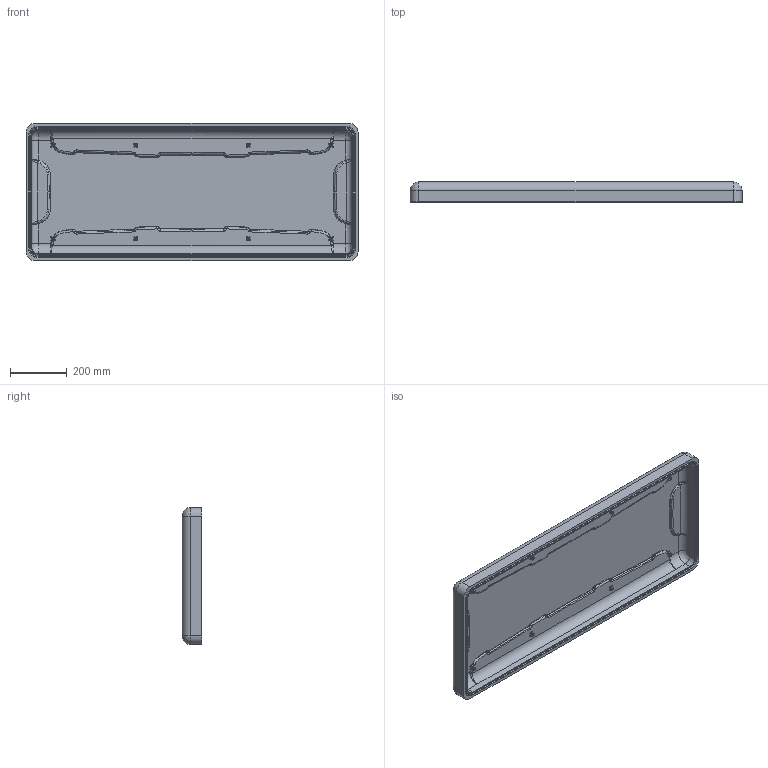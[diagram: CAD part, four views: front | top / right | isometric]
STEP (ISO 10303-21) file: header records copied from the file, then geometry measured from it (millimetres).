
FILE_DESCRIPTION (( 'STEP AP203' ), '1' );
FILE_NAME ('991_TOP INNER SURFACES_STEP.STEP', '2023-02-01T18:27:15', ( 'Sylvain' ), ( '' ), 'SwSTEP 2.0', 'SolidWorks 2022', '' );
FILE_SCHEMA (( 'CONFIG_CONTROL_DESIGN' ));
Length unit declared in the file: inch
Products named in the file (1): 991_TOP INNER SURFACES_STEP
Bounding box: 1168.4 x 69.85 x 482.6 mm (x, y, z)
Volume: 12126301.6 mm3; surface area: 1499116.2 mm2
Topology: 1 solids, 1 shells, 1706 faces, 4156 edges, 2344 vertices
Faces by surface type: bspline 645, plane 383, cylinder 326, sphere 168, torus 112, cone 72
Entity records: 79005 total; most frequent: CARTESIAN_POINT 44360, ORIENTED_EDGE 7984, DIRECTION 6106, EDGE_CURVE 3992, VERTEX_POINT 2344, AXIS2_PLACEMENT_3D 2326, EDGE_LOOP 1762, ADVANCED_FACE 1706
